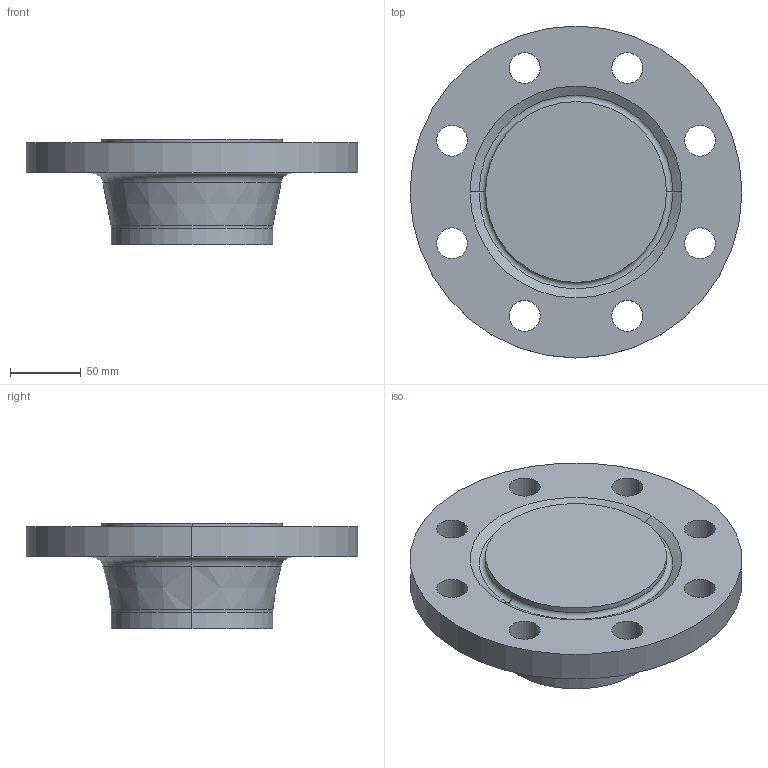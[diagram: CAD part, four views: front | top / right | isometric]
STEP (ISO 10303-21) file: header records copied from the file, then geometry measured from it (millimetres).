
FILE_DESCRIPTION (( 'STEP AP214' ), '1' );
FILE_NAME ('PN40 DN100 Type 21(ii) - Type H Face.STEP', '2019-01-01T23:14:02', ( '' ), ( '' ), 'SwSTEP 2.0', 'SolidWorks 2019', '' );
FILE_SCHEMA (( 'AUTOMOTIVE_DESIGN' ));
Length unit declared in the file: millimetre
Products named in the file (1): PN40 DN100 Type 21(ii) - Type H Face
Bounding box: 235 x 235 x 75 mm (x, y, z)
Volume: 1464417.6 mm3; surface area: 127108.4 mm2
Topology: 1 solids, 1 shells, 36 faces, 86 edges, 54 vertices
Faces by surface type: cylinder 22, torus 6, cone 4, plane 4
Entity records: 1136 total; most frequent: DIRECTION 220, CARTESIAN_POINT 177, ORIENTED_EDGE 172, AXIS2_PLACEMENT_3D 97, EDGE_CURVE 86, CIRCLE 60, VERTEX_POINT 54, EDGE_LOOP 54
